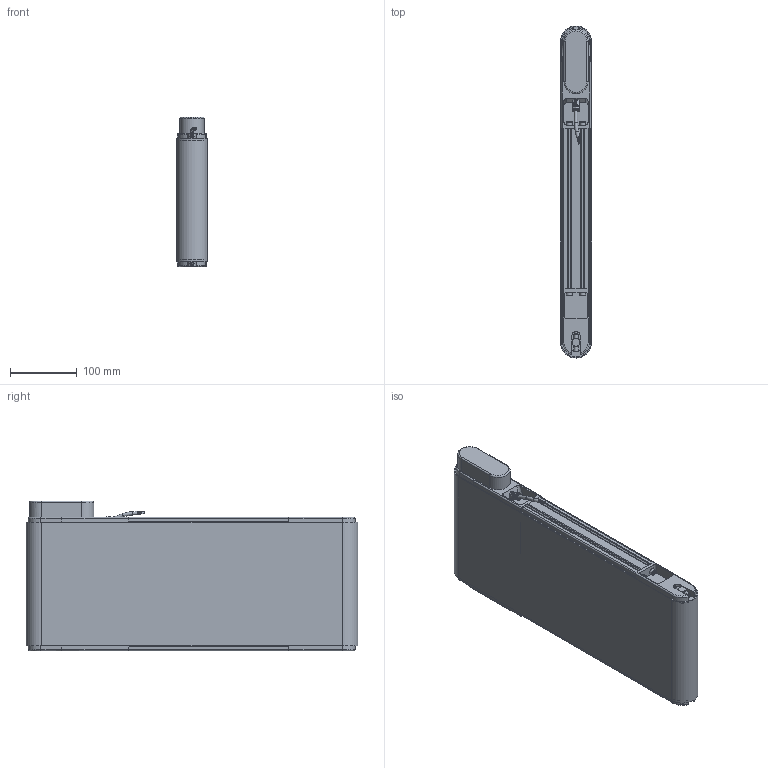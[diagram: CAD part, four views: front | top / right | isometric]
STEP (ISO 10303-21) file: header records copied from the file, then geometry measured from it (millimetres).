
FILE_DESCRIPTION(/* description */ (''),/* implementation_level */ '2;1');
FILE_NAME(/* name */ 'G:\DATEN\CAD\Förderband\Marketing\3D-Modelle (Standard)\FR-40-200-Q\FR-40-200-Q-450-K.stp',/* time_stamp */ '2019-05-09T09:46:26+02:00',/* author */ ('melanie.ochs'),/* organization */ (''),/* preprocessor_version */ 'ST-DEVELOPER v17',/* originating_system */ 'Autodesk Inventor 2019',/* authorisation */ '');
FILE_SCHEMA (('CONFIG_CONTROL_DESIGN'));
Length unit declared in the file: centimetre
Products named in the file (1): FR-40-200-Q-450-K
Bounding box: 46.6 x 496.6 x 224.5 mm (x, y, z)
Volume: 2407571.3 mm3; surface area: 599207.2 mm2
Topology: 6 solids, 25 shells, 924 faces, 2504 edges, 1671 vertices
Faces by surface type: plane 473, cylinder 291, cone 70, bspline 61, torus 29
Full cylindrical faces by diameter (mm): 1 x6, 3 x1, 4 x12, 4.3 x4, 4.917 x3, 5 x11, 5.5 x8, 6 x4, 6.5 x1, 6.773 x1, 6.917 x3, 8 x4, 8.3 x4, 8.5 x8, 8.773 x1, 10 x2, 11 x1, 12 x6, 25 x2, 28 x2, 28.01 x2, 30 x1
Entity records: 31084 total; most frequent: CARTESIAN_POINT 6835, ORIENTED_EDGE 4964, DIRECTION 4769, EDGE_CURVE 2482, AXIS2_PLACEMENT_3D 1714, VERTEX_POINT 1670, LINE 1341, VECTOR 1341
